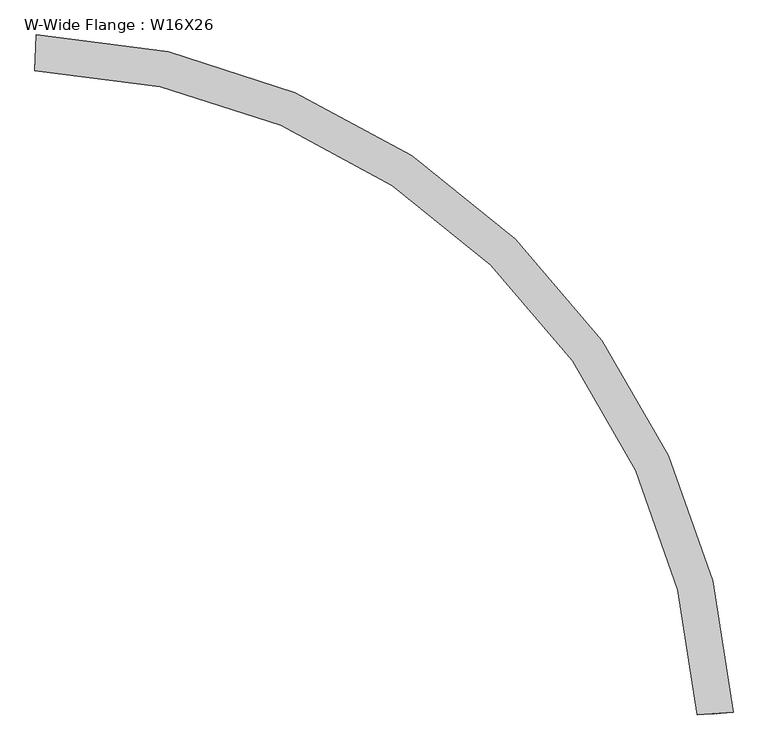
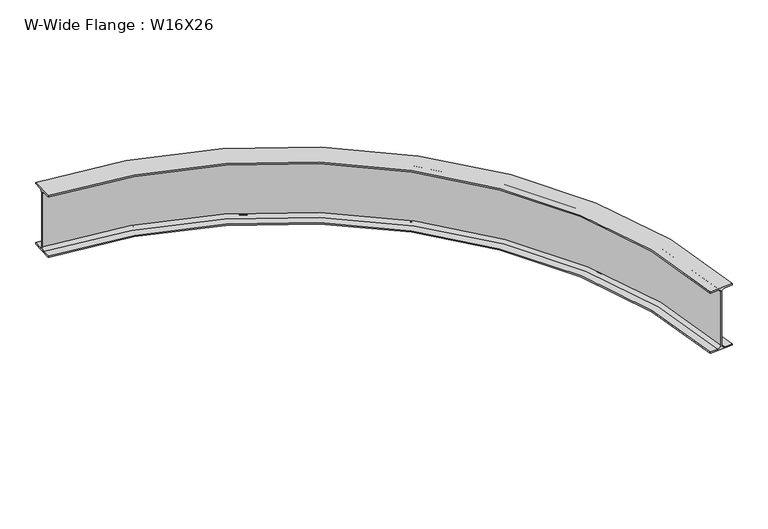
"""IFC4 building model written with IfcOpenShell, lengths in millimetres: beam geometry, W-Wide Flange : W16X26."""

from ifc_helpers import new_model, si_unit, point, frame, origin, place, context, project, spatial, polyline, circle_curve, ellipse_curve, trimmed, source, transform, mapped, element, save
from ifc_brep_helpers import plane_surface, cylinder_surface, revolved_surface, advanced_brep


def w_wide_flange_w16x26_7959fbc0(model_context):
    return source(origin(), model_context, "Body", "AdvancedBrep", [
        advanced_brep(
        [(2687.1196296, -2593.7096303, -190.5496094), (2687.1196296, -2593.7096303, -199.2808594), (2826.5456481, -2584.9646111, -199.2808594), (2826.5456481, -2584.9646111, -190.5496094), (2778.2218576, -2587.9955553, -190.5496094), (2760.001412, -2589.1383703, -172.2933594), (2760.001412, -2589.1383703, 172.2933594), (2778.2218576, -2587.9955553, 190.5496094), (2826.5456481, -2584.9646111, 190.5496094), (2826.5456481, -2584.9646111, 199.2808594), (2687.1196296, -2593.7096303, 199.2808594), (2687.1196296, -2593.7096303, 190.5496094), (2735.4434201, -2590.6786861, 190.5496094), (2753.6638657, -2589.5358711, 172.2933594), (2753.6638657, -2589.5358711, -172.2933594), (2735.4434201, -2590.6786861, -190.5496094), (94.7733091, -71.5185418, -190.5496094), (96.477664, -23.1297981, -190.5496094), (97.1202896, -4.8848619, -172.2933594), (97.1202896, -4.8848619, 172.2933594), (96.477664, -23.1297981, 190.5496094), (94.7733091, -71.5185418, 190.5496094), (94.7733091, -71.5185418, 199.2808594), (99.6907921, 68.0948829, 199.2808594), (99.6907921, 68.0948829, 190.5496094), (97.9864372, 19.7061391, 190.5496094), (97.3438116, 1.4612029, 172.2933594), (97.3438116, 1.4612029, -172.2933594), (97.9864372, 19.7061391, -190.5496094), (99.6907921, 68.0948829, -190.5496094), (99.6907921, 68.0948829, -199.2808594), (94.7733091, -71.5185418, -199.2808594)],
        [
            (0, 1),
            (1, 2),
            (2, 3),
            (3, 4),
            (4, 5, circle_curve(frame((2778.2218576, -2587.9955553, -172.2933594), z_axis=(-0.06259856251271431, 0.9980387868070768, 0.0), x_axis=(0.9980387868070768, 0.06259856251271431, 0.0)), 18.25625)),
            (5, 6),
            (6, 7, circle_curve(frame((2778.2218576, -2587.9955553, 172.2933594), z_axis=(-0.06259856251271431, 0.9980387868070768, 0.0), x_axis=(0.9980387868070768, 0.06259856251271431, 0.0)), 18.25625)),
            (7, 8),
            (8, 9),
            (9, 10),
            (10, 11),
            (11, 12),
            (12, 13, circle_curve(frame((2735.4434201, -2590.6786861, 172.2933594), z_axis=(-0.06259856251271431, 0.9980387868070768, 0.0), x_axis=(0.9980387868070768, 0.06259856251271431, 0.0)), 18.25625)),
            (13, 14),
            (14, 15, circle_curve(frame((2735.4434201, -2590.6786861, -172.2933594), z_axis=(-0.06259856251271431, 0.9980387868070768, 0.0), x_axis=(0.9980387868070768, 0.06259856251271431, 0.0)), 18.25625)),
            (15, 0),
            (16, 17),
            (17, 18, circle_curve(frame((96.477664, -23.1297981, -172.2933594), z_axis=(0.9993802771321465, -0.035200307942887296, 0.0), x_axis=(0.035200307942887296, 0.9993802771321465, 0.0)), 18.25625)),
            (18, 19),
            (19, 20, circle_curve(frame((96.477664, -23.1297981, 172.2933594), z_axis=(0.9993802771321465, -0.035200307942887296, 0.0), x_axis=(0.035200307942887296, 0.9993802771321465, 0.0)), 18.25625)),
            (20, 21),
            (21, 22),
            (22, 23),
            (23, 24),
            (24, 25),
            (25, 26, circle_curve(frame((97.9864372, 19.7061391, 172.2933594), z_axis=(0.9993802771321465, -0.035200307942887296, 0.0), x_axis=(0.035200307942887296, 0.9993802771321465, 0.0)), 18.25625)),
            (26, 27),
            (27, 28, circle_curve(frame((97.9864372, 19.7061391, -172.2933594), z_axis=(0.9993802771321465, -0.035200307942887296, 0.0), x_axis=(0.035200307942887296, 0.9993802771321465, 0.0)), 18.25625)),
            (28, 29),
            (29, 30),
            (30, 31),
            (31, 16),
            (15, 17, circle_curve(frame((0.0, -2762.25, -190.5496094), z_axis=(0.0, 0.0, 1.0), x_axis=(-1.0, 0.0, 0.0)), 2740.81875)),
            (16, 0, circle_curve(frame((0.0, -2762.25, -190.5496094), z_axis=(0.0, 0.0, -1.0), x_axis=(-1.0, 0.0, 0.0)), 2692.4)),
            (14, 18, circle_curve(frame((0.0, -2762.25, -172.2933594), z_axis=(0.0, 0.0, 1.0), x_axis=(-1.0, 0.0, 0.0)), 2759.075)),
            (13, 19, circle_curve(frame((0.0, -2762.25, 172.2933594), z_axis=(0.0, 0.0, 1.0), x_axis=(-1.0, 0.0, 0.0)), 2759.075)),
            (12, 20, circle_curve(frame((0.0, -2762.25, 190.5496094), z_axis=(0.0, 0.0, 1.0), x_axis=(-1.0, 0.0, 0.0)), 2740.81875)),
            (11, 21, circle_curve(frame((0.0, -2762.25, 190.5496094), z_axis=(0.0, 0.0, 1.0), x_axis=(-1.0, 0.0, 0.0)), 2692.4)),
            (10, 22, circle_curve(frame((0.0, -2762.25, 199.2808594), z_axis=(0.0, 0.0, 1.0), x_axis=(-1.0, 0.0, 0.0)), 2692.4)),
            (9, 23, circle_curve(frame((0.0, -2762.25, 199.2808594), z_axis=(0.0, 0.0, 1.0), x_axis=(-1.0, 0.0, 0.0)), 2832.1)),
            (8, 24, circle_curve(frame((0.0, -2762.25, 190.5496094), z_axis=(0.0, 0.0, 1.0), x_axis=(-1.0, 0.0, 0.0)), 2832.1)),
            (7, 25, circle_curve(frame((0.0, -2762.25, 190.5496094), z_axis=(0.0, 0.0, 1.0), x_axis=(-1.0, 0.0, 0.0)), 2783.68125)),
            (6, 26, circle_curve(frame((0.0, -2762.25, 172.2933594), z_axis=(0.0, 0.0, 1.0), x_axis=(-1.0, 0.0, 0.0)), 2765.425)),
            (5, 27, circle_curve(frame((0.0, -2762.25, -172.2933594), z_axis=(0.0, 0.0, 1.0), x_axis=(-1.0, 0.0, 0.0)), 2765.425)),
            (4, 28, circle_curve(frame((0.0, -2762.25, -190.5496094), z_axis=(0.0, 0.0, 1.0), x_axis=(-1.0, 0.0, 0.0)), 2783.68125)),
            (3, 29, circle_curve(frame((0.0, -2762.25, -190.5496094), z_axis=(0.0, 0.0, 1.0), x_axis=(-1.0, 0.0, 0.0)), 2832.1)),
            (2, 30, circle_curve(frame((0.0, -2762.25, -199.2808594), z_axis=(0.0, 0.0, 1.0), x_axis=(-1.0, 0.0, 0.0)), 2832.1)),
            (1, 31, circle_curve(frame((0.0, -2762.25, -199.2808594), z_axis=(0.0, 0.0, 1.0), x_axis=(-1.0, 0.0, 0.0)), 2692.4)),
        ],
        [
            plane_surface(frame((2756.8326389, -2589.3371207, 0.0), z_axis=(0.06259856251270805, -0.9980387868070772, 0.0), x_axis=(0.0, 0.0, 1.0))),
            plane_surface(frame((97.2320506, -1.7118295, 0.0), z_axis=(-0.9993802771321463, 0.03520030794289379, 0.0), x_axis=(0.0, 0.0, 1.0))),
            plane_surface(frame((0.0, -2762.25, -190.5496094), z_axis=(0.0, 0.0, 1.0), x_axis=(-1.0, 0.0, 0.0))),
            revolved_surface(trimmed(ellipse_curve(frame((-2740.81875, -2762.25, -172.2933594), z_axis=(0.0, -1.0, 0.0), x_axis=(-1.0, 0.0, 0.0)), 18.25625, 18.25625), [point((-2759.075, -2762.25, -172.2933594))], [point((-2740.81875, -2762.25, -190.5496094))], True, "CARTESIAN"), (0.0, -2762.25, 0.0), (0.0, 0.0, 1.0)),
            revolved_surface(polyline([(-2759.075, -2762.25, 172.2933594), (-2759.075, -2762.25, -172.2933594)]), (0.0, -2762.25, 0.0), (0.0, 0.0, 1.0)),
            revolved_surface(trimmed(ellipse_curve(frame((-2740.81875, -2762.25, 172.2933594), z_axis=(0.0, -1.0, 0.0), x_axis=(-1.0, 0.0, 0.0)), 18.25625, 18.25625), [point((-2740.81875, -2762.25, 190.5496094))], [point((-2759.075, -2762.25, 172.2933594))], True, "CARTESIAN"), (0.0, -2762.25, 0.0), (0.0, 0.0, 1.0)),
            plane_surface(frame((0.0, -2762.25, 190.5496094), z_axis=(0.0, 0.0, -1.0), x_axis=(-1.0, 0.0, 0.0))),
            revolved_surface(polyline([(-2692.4, -2762.25, 199.2808594), (-2692.4, -2762.25, 190.5496094)]), (0.0, -2762.25, 0.0), (0.0, 0.0, 1.0)),
            plane_surface(frame((0.0, -2762.25, 199.2808594), z_axis=(0.0, 0.0, 1.0), x_axis=(-1.0, 0.0, 0.0))),
            cylinder_surface(frame((0.0, -2762.25, 0.0), z_axis=(0.0, 0.0, 1.0), x_axis=(-1.0, 0.0, 0.0)), 2832.1),
            revolved_surface(trimmed(ellipse_curve(frame((-2783.68125, -2762.25, 172.2933594), z_axis=(0.0, -1.0, 0.0), x_axis=(-1.0, 0.0, 0.0)), 18.25625, 18.25625), [point((-2765.425, -2762.25, 172.2933594))], [point((-2783.68125, -2762.25, 190.5496094))], True, "CARTESIAN"), (0.0, -2762.25, 0.0), (0.0, 0.0, 1.0)),
            cylinder_surface(frame((0.0, -2762.25, 0.0), z_axis=(0.0, 0.0, 1.0), x_axis=(-1.0, 0.0, 0.0)), 2765.425),
            revolved_surface(trimmed(ellipse_curve(frame((-2783.68125, -2762.25, -172.2933594), z_axis=(0.0, -1.0, 0.0), x_axis=(-1.0, 0.0, 0.0)), 18.25625, 18.25625), [point((-2783.68125, -2762.25, -190.5496094))], [point((-2765.425, -2762.25, -172.2933594))], True, "CARTESIAN"), (0.0, -2762.25, 0.0), (0.0, 0.0, 1.0)),
            plane_surface(frame((0.0, -2762.25, -199.2808594), z_axis=(0.0, 0.0, -1.0), x_axis=(-1.0, 0.0, 0.0))),
            revolved_surface(polyline([(-2692.4, -2762.25, -190.5496094), (-2692.4, -2762.25, -199.2808594)]), (0.0, -2762.25, 0.0), (0.0, 0.0, 1.0)),
        ],
        [
            (0, [[1, 2, 3, 4, 5, 6, 7, 8, 9, 10, 11, 12, 13, 14, 15, 16]]),
            (1, [[17, 18, 19, 20, 21, 22, 23, 24, 25, 26, 27, 28, 29, 30, 31, 32]]),
            (2, [[33, -17, 34, -16]]),
            (3, [[35, -18, -33, -15]]),
            (4, [[36, -19, -35, -14]]),
            (5, [[37, -20, -36, -13]]),
            (6, [[38, -21, -37, -12]]),
            (7, [[39, -22, -38, -11]]),
            (8, [[40, -23, -39, -10]]),
            (9, [[41, -24, -40, -9]]),
            (6, [[42, -25, -41, -8]]),
            (10, [[43, -26, -42, -7]]),
            (11, [[44, -27, -43, -6]]),
            (12, [[45, -28, -44, -5]]),
            (2, [[46, -29, -45, -4]]),
            (9, [[47, -30, -46, -3]]),
            (13, [[48, -31, -47, -2]]),
            (14, [[-34, -32, -48, -1]]),
        ],
    ),
    ])


if __name__ == "__main__":
    model = new_model("IFC4")
    model_context = context("Model", 3, world=origin())
    ifc_project = project(units=[si_unit("LENGTHUNIT", "METRE", prefix="MILLI")], contexts=[model_context])
    site = spatial("IfcSite", under=ifc_project)
    building = spatial("IfcBuilding", under=site)
    placement = place(None, origin())
    w_wide_flange_w16x26_shape = w_wide_flange_w16x26_7959fbc0(model_context)
    element("IfcBeam", 1, ObjectType="W-Wide Flange : W16X26", at=placement, inside=building, context=model_context, shape_type="MappedRepresentation", body=[
        mapped(w_wide_flange_w16x26_shape, transform((0.0, 0.0, 0.0), x_axis=(1.0, 0.0, 0.0), y_axis=(0.0, 1.0, 0.0), z_axis=(0.0, 0.0, 1.0))),
    ])
    save(model, "model.ifc")
